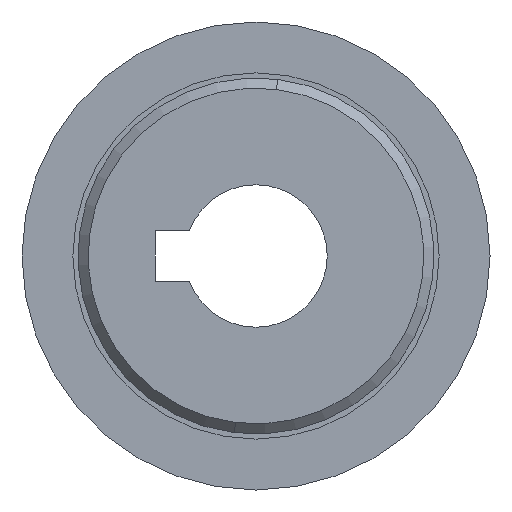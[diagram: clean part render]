
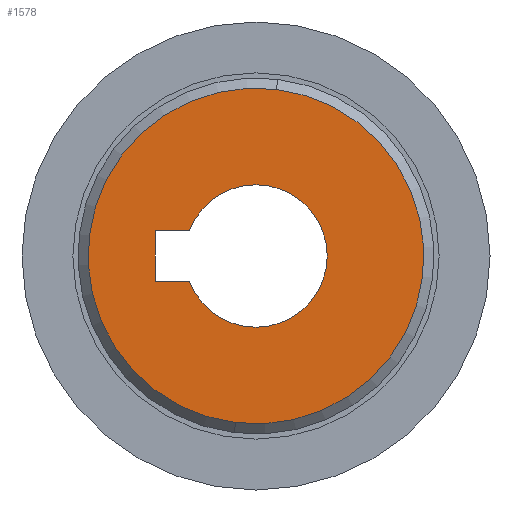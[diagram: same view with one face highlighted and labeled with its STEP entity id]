
A CAD part, left-side view. The second image highlights one B-rep face of the part: STEP entity #1578.
In plain terms, the highlighted planar face has unit normal (-1, 0, 0).
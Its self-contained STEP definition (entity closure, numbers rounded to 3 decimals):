
#96 = VECTOR ( 'NONE', #22359, 1000. ) ;
#126 = DIRECTION ( 'NONE',  ( -1., 0., 0. ) ) ;
#438 = VERTEX_POINT ( 'NONE', #3764 ) ;
#495 = EDGE_CURVE ( 'NONE', #438, #3735, #10383, .T. ) ;
#824 = FACE_OUTER_BOUND ( 'NONE', #26842, .T. ) ;
#1578 = ADVANCED_FACE ( 'NONE', ( #19860, #824 ), #23157, .T. ) ;
#1723 = AXIS2_PLACEMENT_3D ( 'NONE', #17142, #17279, #27442 ) ;
#2030 = VECTOR ( 'NONE', #12351, 1000. ) ;
#2371 = VERTEX_POINT ( 'NONE', #10684 ) ;
#2587 = DIRECTION ( 'NONE',  ( -1., 0., 0. ) ) ;
#3056 = CIRCLE ( 'NONE', #1723, 7. ) ;
#3461 = ORIENTED_EDGE ( 'NONE', *, *, #4074, .T. ) ;
#3589 = CARTESIAN_POINT ( 'NONE',  ( -1., 0., 0. ) ) ;
#3735 = VERTEX_POINT ( 'NONE', #5438 ) ;
#3764 = CARTESIAN_POINT ( 'NONE',  ( -1., 2.011, -16.377 ) ) ;
#4074 = EDGE_CURVE ( 'NONE', #17470, #2371, #11917, .T. ) ;
#4267 = EDGE_CURVE ( 'NONE', #2371, #21689, #24965, .T. ) ;
#5438 = CARTESIAN_POINT ( 'NONE',  ( -1., -2.011, 16.377 ) ) ;
#5447 = VERTEX_POINT ( 'NONE', #22223 ) ;
#6696 = CARTESIAN_POINT ( 'NONE',  ( -1., 9.9, 2.5 ) ) ;
#6757 = CARTESIAN_POINT ( 'NONE',  ( -1., 6.538, -2.5 ) ) ;
#6891 = ORIENTED_EDGE ( 'NONE', *, *, #4267, .T. ) ;
#7753 = DIRECTION ( 'NONE',  ( 1., 0., 0. ) ) ;
#8615 = ORIENTED_EDGE ( 'NONE', *, *, #22810, .T. ) ;
#10383 = CIRCLE ( 'NONE', #26408, 16.5 ) ;
#10684 = CARTESIAN_POINT ( 'NONE',  ( -1., 6.538, 2.5 ) ) ;
#11012 = CIRCLE ( 'NONE', #20343, 16.5 ) ;
#11103 = VERTEX_POINT ( 'NONE', #17446 ) ;
#11828 = EDGE_CURVE ( 'NONE', #11103, #17470, #20147, .T. ) ;
#11917 = LINE ( 'NONE', #16078, #96 ) ;
#12079 = LINE ( 'NONE', #22792, #2030 ) ;
#12351 = DIRECTION ( 'NONE',  ( 0., 1., 0. ) ) ;
#12856 = CARTESIAN_POINT ( 'NONE',  ( -1., 0., 0. ) ) ;
#13209 = CARTESIAN_POINT ( 'NONE',  ( -1., 0., 7. ) ) ;
#13471 = EDGE_LOOP ( 'NONE', ( #25797, #22102, #3461, #6891, #8615, #19259 ) ) ;
#13475 = CARTESIAN_POINT ( 'NONE',  ( -1., 9.9, 2.5 ) ) ;
#13842 = DIRECTION ( 'NONE',  ( 0., -0.122, 0.993 ) ) ;
#15270 = ORIENTED_EDGE ( 'NONE', *, *, #15375, .T. ) ;
#15375 = EDGE_CURVE ( 'NONE', #3735, #438, #11012, .T. ) ;
#16071 = EDGE_CURVE ( 'NONE', #5447, #22844, #3056, .T. ) ;
#16078 = CARTESIAN_POINT ( 'NONE',  ( -1., 6.538, 2.5 ) ) ;
#16098 = DIRECTION ( 'NONE',  ( 0., 0., 1. ) ) ;
#16491 = DIRECTION ( 'NONE',  ( 0., 0., -1. ) ) ;
#17038 = CARTESIAN_POINT ( 'NONE',  ( -1., 0., 0. ) ) ;
#17142 = CARTESIAN_POINT ( 'NONE',  ( -1., 0., 0. ) ) ;
#17279 = DIRECTION ( 'NONE',  ( 1., 0., 0. ) ) ;
#17446 = CARTESIAN_POINT ( 'NONE',  ( -1., 9.9, -2.5 ) ) ;
#17470 = VERTEX_POINT ( 'NONE', #6696 ) ;
#17486 = CIRCLE ( 'NONE', #18370, 7. ) ;
#17615 = CARTESIAN_POINT ( 'NONE',  ( -1., 0., 0. ) ) ;
#18370 = AXIS2_PLACEMENT_3D ( 'NONE', #17038, #27209, #25528 ) ;
#18686 = AXIS2_PLACEMENT_3D ( 'NONE', #12856, #2587, #23303 ) ;
#19161 = CARTESIAN_POINT ( 'NONE',  ( -1., 0., 0. ) ) ;
#19259 = ORIENTED_EDGE ( 'NONE', *, *, #16071, .T. ) ;
#19860 = FACE_BOUND ( 'NONE', #13471, .T. ) ;
#20077 = AXIS2_PLACEMENT_3D ( 'NONE', #3589, #7753, #16491 ) ;
#20147 = LINE ( 'NONE', #13475, #23893 ) ;
#20343 = AXIS2_PLACEMENT_3D ( 'NONE', #17615, #24422, #13842 ) ;
#21133 = ORIENTED_EDGE ( 'NONE', *, *, #495, .T. ) ;
#21689 = VERTEX_POINT ( 'NONE', #13209 ) ;
#22102 = ORIENTED_EDGE ( 'NONE', *, *, #11828, .T. ) ;
#22223 = CARTESIAN_POINT ( 'NONE',  ( -1., 0., -7. ) ) ;
#22359 = DIRECTION ( 'NONE',  ( 0., -1., 0. ) ) ;
#22792 = CARTESIAN_POINT ( 'NONE',  ( -1., 6.538, -2.5 ) ) ;
#22810 = EDGE_CURVE ( 'NONE', #21689, #5447, #17486, .T. ) ;
#22844 = VERTEX_POINT ( 'NONE', #6757 ) ;
#23157 = PLANE ( 'NONE',  #18686 ) ;
#23303 = DIRECTION ( 'NONE',  ( 0., -0.122, 0.993 ) ) ;
#23483 = DIRECTION ( 'NONE',  ( 0., -0.122, 0.993 ) ) ;
#23893 = VECTOR ( 'NONE', #16098, 1000. ) ;
#24422 = DIRECTION ( 'NONE',  ( -1., 0., 0. ) ) ;
#24965 = CIRCLE ( 'NONE', #20077, 7. ) ;
#25528 = DIRECTION ( 'NONE',  ( 0., 0., -1. ) ) ;
#25797 = ORIENTED_EDGE ( 'NONE', *, *, #26183, .T. ) ;
#26183 = EDGE_CURVE ( 'NONE', #22844, #11103, #12079, .T. ) ;
#26408 = AXIS2_PLACEMENT_3D ( 'NONE', #19161, #126, #23483 ) ;
#26842 = EDGE_LOOP ( 'NONE', ( #21133, #15270 ) ) ;
#27209 = DIRECTION ( 'NONE',  ( 1., 0., 0. ) ) ;
#27442 = DIRECTION ( 'NONE',  ( 0., 0., -1. ) ) ;
